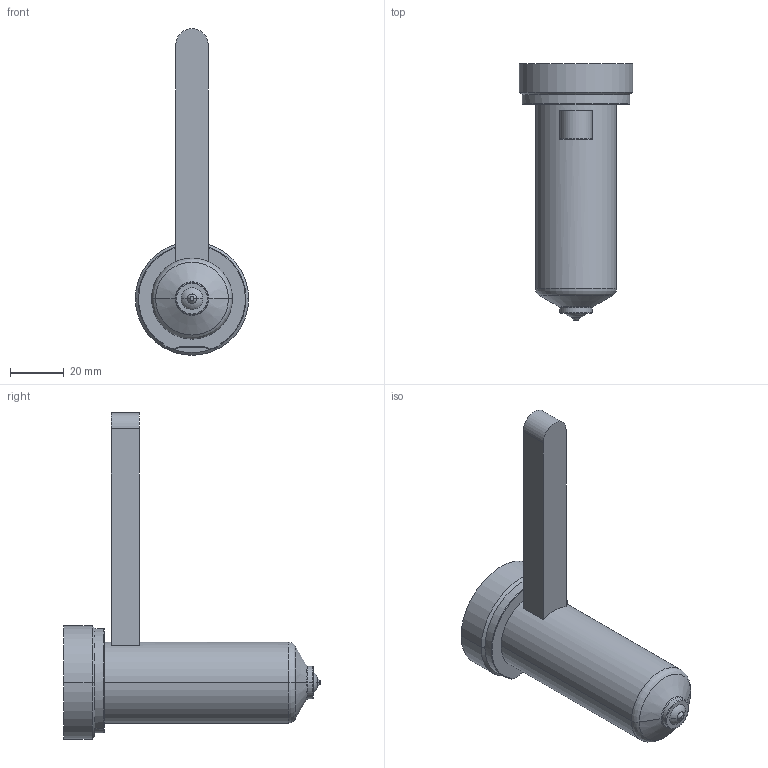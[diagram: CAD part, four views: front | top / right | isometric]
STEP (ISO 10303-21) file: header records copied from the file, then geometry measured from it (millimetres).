
FILE_DESCRIPTION((''),'2;1');
FILE_NAME('EO08_PG-BL_STD_080_COT','2024-02-19T11:05:03',('sundharh'),(''),'CREO PARAMETRIC BY PTC INC, 2023154','CREO PARAMETRIC BY PTC INC, 2023154','');
FILE_SCHEMA(('CONFIG_CONTROL_DESIGN'));
Length unit declared in the file: millimetre
Products named in the file (1): EO08_PG-BL_STD_080_COT
Bounding box: 42 x 95 x 121 mm (x, y, z)
Volume: 82422.7 mm3; surface area: 15156.4 mm2
Topology: 1 solids, 1 shells, 40 faces, 85 edges, 50 vertices
Faces by surface type: cylinder 13, plane 10, torus 9, cone 6, sphere 2
Entity records: 1185 total; most frequent: CARTESIAN_POINT 255, DIRECTION 209, ORIENTED_EDGE 170, AXIS2_PLACEMENT_3D 90, EDGE_CURVE 85, VERTEX_POINT 50, CIRCLE 50, EDGE_LOOP 43
